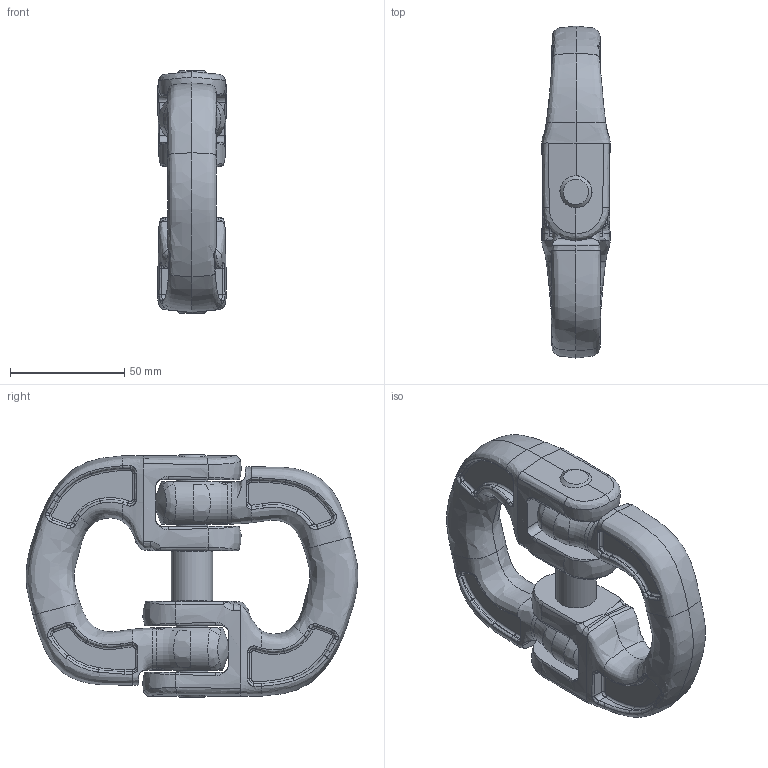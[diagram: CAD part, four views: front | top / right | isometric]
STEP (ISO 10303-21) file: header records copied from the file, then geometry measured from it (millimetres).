
FILE_DESCRIPTION(/* description */ (''),/* implementation_level */ '2;1');
FILE_NAME(/* name */ 'CW 16 Kundenmodell',/* time_stamp */ '2010-01-04T14:44:05+01:00',/* author */ (''),/* organization */ (''),/* preprocessor_version */ 'ST-DEVELOPER v9',/* originating_system */ 'UGS - NX 4.0',/* authorisation */ '');
FILE_SCHEMA (('AUTOMOTIVE_DESIGN { 1 0 10303 214 1 1 1 1 }'));
Products named in the file (1): rit4701px79
Bounding box: 30.2 x 144.99 x 106 mm (x, y, z)
Volume: 205146.6 mm3; surface area: 51955.2 mm2
Topology: 5 solids, 5 shells, 601 faces, 1443 edges, 842 vertices
Faces by surface type: bspline 294, cylinder 141, plane 88, torus 48, cone 26, sphere 4
Full cylindrical faces by diameter (mm): 13.5 x1, 14 x7, 18 x1
Entity records: 54117 total; most frequent: CARTESIAN_POINT 42398, ORIENTED_EDGE 2836, DIRECTION 1894, EDGE_CURVE 1418, VERTEX_POINT 836, AXIS2_PLACEMENT_3D 824, B_SPLINE_CURVE_WITH_KNOTS 656, EDGE_LOOP 622
